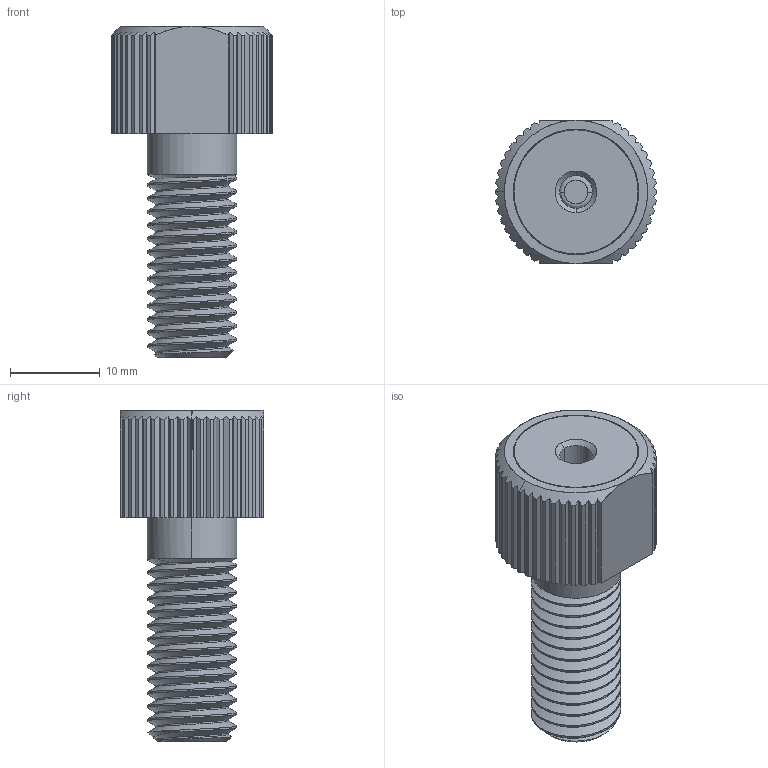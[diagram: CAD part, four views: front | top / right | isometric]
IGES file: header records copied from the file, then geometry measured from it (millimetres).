
Start section: SolidWorks IGES file using analytic representation for surfaces
Global section: file name: C:\Users\Jonathan\Dropbox\BR-Engineering\Models\BAR30-PRESSURE-SENSOR-X1\BAR30-SENSOR-ASSEMBLY-R1.IGS; native system: SolidWorks 2014; preprocessor: SolidWorks 2014; author: Jonathan; date: 151222.142228; units: millimetre
Bounding box: 18 x 16 x 37 mm (x, y, z)
Surface area: 4361.8 mm2 (no closed solid volume)
Topology: 0 solids, 0 shells, 241 faces, 3604 edges, 3604 vertices
Faces by surface type: revolution 126, bspline 115
